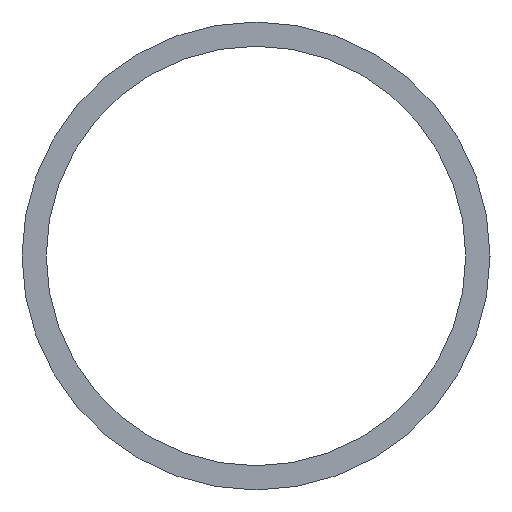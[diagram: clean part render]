
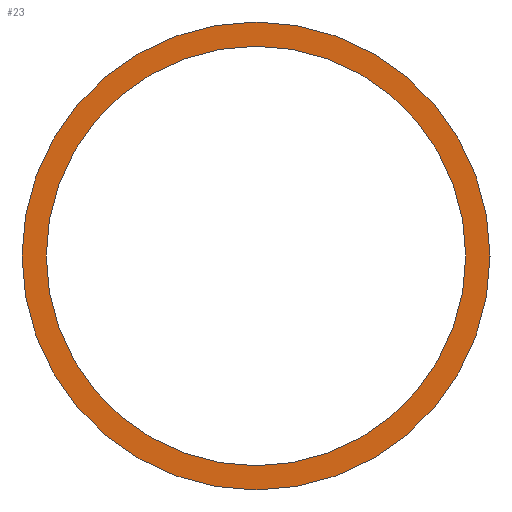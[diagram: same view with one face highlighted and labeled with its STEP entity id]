
A CAD part, left-side view. The second image highlights one B-rep face of the part: STEP entity #23.
In plain terms, the highlighted planar face has unit normal (-1, 0, 0).
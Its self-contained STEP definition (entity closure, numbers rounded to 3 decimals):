
#5 = AXIS2_PLACEMENT_3D ( 'NONE', #135, #43, #205 ) ;
#7 = FACE_BOUND ( 'NONE', #55, .T. ) ;
#9 = EDGE_CURVE ( 'NONE', #38, #133, #101, .T. ) ;
#22 = VERTEX_POINT ( 'NONE', #24 ) ;
#23 = ADVANCED_FACE ( 'NONE', ( #88, #7 ), #74, .F. ) ;
#24 = CARTESIAN_POINT ( 'NONE',  ( 37991.853, 3796.65, 3495.85 ) ) ;
#38 = VERTEX_POINT ( 'NONE', #109 ) ;
#43 = DIRECTION ( 'NONE',  ( 1., 0., 0. ) ) ;
#49 = DIRECTION ( 'NONE',  ( 0., 1., 0. ) ) ;
#50 = CARTESIAN_POINT ( 'NONE',  ( 37991.853, 3775., 3495.85 ) ) ;
#55 = EDGE_LOOP ( 'NONE', ( #153, #188 ) ) ;
#56 = DIRECTION ( 'NONE',  ( 1., 0., 0. ) ) ;
#59 = DIRECTION ( 'NONE',  ( 1., 0., 0. ) ) ;
#60 = CIRCLE ( 'NONE', #177, 21.65 ) ;
#65 = AXIS2_PLACEMENT_3D ( 'NONE', #107, #56, #184 ) ;
#74 = PLANE ( 'NONE',  #5 ) ;
#75 = CARTESIAN_POINT ( 'NONE',  ( 37991.853, 3775., 3495.85 ) ) ;
#76 = DIRECTION ( 'NONE',  ( 0., 1., 0. ) ) ;
#77 = CARTESIAN_POINT ( 'NONE',  ( 37991.853, 3799.15, 3495.85 ) ) ;
#81 = EDGE_CURVE ( 'NONE', #22, #132, #60, .T. ) ;
#84 = AXIS2_PLACEMENT_3D ( 'NONE', #111, #125, #49 ) ;
#86 = EDGE_LOOP ( 'NONE', ( #89, #167 ) ) ;
#88 = FACE_OUTER_BOUND ( 'NONE', #86, .T. ) ;
#89 = ORIENTED_EDGE ( 'NONE', *, *, #9, .F. ) ;
#98 = EDGE_CURVE ( 'NONE', #133, #38, #158, .T. ) ;
#101 = CIRCLE ( 'NONE', #65, 24.15 ) ;
#107 = CARTESIAN_POINT ( 'NONE',  ( 37991.853, 3775., 3495.85 ) ) ;
#109 = CARTESIAN_POINT ( 'NONE',  ( 37991.853, 3750.85, 3495.85 ) ) ;
#111 = CARTESIAN_POINT ( 'NONE',  ( 37991.853, 3775., 3495.85 ) ) ;
#114 = EDGE_CURVE ( 'NONE', #132, #22, #185, .T. ) ;
#125 = DIRECTION ( 'NONE',  ( 1., 0., 0. ) ) ;
#132 = VERTEX_POINT ( 'NONE', #209 ) ;
#133 = VERTEX_POINT ( 'NONE', #77 ) ;
#135 = CARTESIAN_POINT ( 'NONE',  ( 37991.853, 3775., 3495.85 ) ) ;
#138 = DIRECTION ( 'NONE',  ( 0., 1., 0. ) ) ;
#140 = AXIS2_PLACEMENT_3D ( 'NONE', #50, #156, #138 ) ;
#153 = ORIENTED_EDGE ( 'NONE', *, *, #114, .T. ) ;
#156 = DIRECTION ( 'NONE',  ( 1., 0., 0. ) ) ;
#158 = CIRCLE ( 'NONE', #140, 24.15 ) ;
#167 = ORIENTED_EDGE ( 'NONE', *, *, #98, .F. ) ;
#177 = AXIS2_PLACEMENT_3D ( 'NONE', #75, #59, #76 ) ;
#184 = DIRECTION ( 'NONE',  ( 0., 1., 0. ) ) ;
#185 = CIRCLE ( 'NONE', #84, 21.65 ) ;
#188 = ORIENTED_EDGE ( 'NONE', *, *, #81, .T. ) ;
#205 = DIRECTION ( 'NONE',  ( 0., 1., 0. ) ) ;
#209 = CARTESIAN_POINT ( 'NONE',  ( 37991.853, 3753.35, 3495.85 ) ) ;
